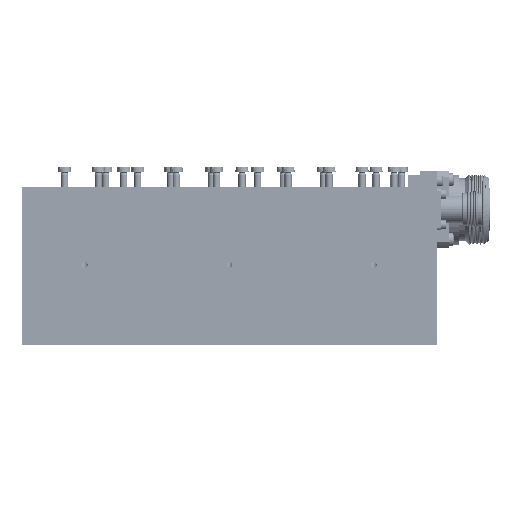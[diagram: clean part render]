
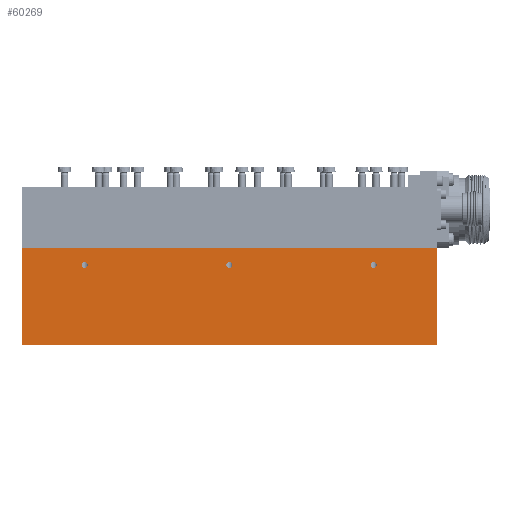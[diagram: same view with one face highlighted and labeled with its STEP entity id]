
A CAD part, front view. The second image highlights one B-rep face of the part: STEP entity #60269.
In plain terms, the highlighted planar face has unit normal (0, -1, 0).
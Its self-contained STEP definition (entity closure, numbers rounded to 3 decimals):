
#2854=LINE('',#90296,#5380);
#2918=LINE('',#90485,#5444);
#2982=LINE('',#90674,#5508);
#3075=LINE('',#90865,#5601);
#5380=VECTOR('',#74423,1000.);
#5444=VECTOR('',#74549,1000.);
#5508=VECTOR('',#74675,1000.);
#5601=VECTOR('',#74958,1000.);
#11869=ORIENTED_EDGE('',*,*,#22770,.T.);
#11870=ORIENTED_EDGE('',*,*,#23054,.F.);
#11871=ORIENTED_EDGE('',*,*,#22864,.F.);
#11872=ORIENTED_EDGE('',*,*,#22958,.T.);
#11873=ORIENTED_EDGE('',*,*,#23055,.T.);
#11874=ORIENTED_EDGE('',*,*,#23056,.T.);
#11875=ORIENTED_EDGE('',*,*,#23057,.T.);
#22770=EDGE_CURVE('',#29032,#29033,#2854,.T.);
#22864=EDGE_CURVE('',#29126,#29127,#2918,.T.);
#22958=EDGE_CURVE('',#29126,#29032,#2982,.T.);
#23054=EDGE_CURVE('',#29127,#29033,#3075,.T.);
#23055=EDGE_CURVE('',#29223,#29223,#33927,.T.);
#23056=EDGE_CURVE('',#29224,#29224,#33928,.T.);
#23057=EDGE_CURVE('',#29225,#29225,#33929,.T.);
#29032=VERTEX_POINT('',#90297);
#29033=VERTEX_POINT('',#90298);
#29126=VERTEX_POINT('',#90486);
#29127=VERTEX_POINT('',#90487);
#29223=VERTEX_POINT('',#90868);
#29224=VERTEX_POINT('',#90870);
#29225=VERTEX_POINT('',#90872);
#33927=CIRCLE('',#65511,1.23);
#33928=CIRCLE('',#65512,1.23);
#33929=CIRCLE('',#65513,1.23);
#37737=EDGE_LOOP('',(#11869,#11870,#11871,#11872));
#37738=EDGE_LOOP('',(#11873));
#37739=EDGE_LOOP('',(#11874));
#37740=EDGE_LOOP('',(#11875));
#44132=FACE_BOUND('',#37737,.T.);
#44133=FACE_BOUND('',#37738,.T.);
#44134=FACE_BOUND('',#37739,.T.);
#44135=FACE_BOUND('',#37740,.T.);
#49143=PLANE('',#65510);
#60269=ADVANCED_FACE('',(#44132,#44133,#44134,#44135),#49143,.F.);
#65510=AXIS2_PLACEMENT_3D('',#90866,#74959,#74960);
#65511=AXIS2_PLACEMENT_3D('',#90867,#74961,#74962);
#65512=AXIS2_PLACEMENT_3D('',#90869,#74963,#74964);
#65513=AXIS2_PLACEMENT_3D('',#90871,#74965,#74966);
#74423=DIRECTION('',(0.,0.,1.));
#74549=DIRECTION('',(0.,0.,1.));
#74675=DIRECTION('',(1.,0.,0.));
#74958=DIRECTION('',(1.,0.,0.));
#74959=DIRECTION('',(0.,1.,0.));
#74960=DIRECTION('',(0.,0.,1.));
#74961=DIRECTION('',(0.,1.,0.));
#74962=DIRECTION('',(0.,0.,1.));
#74963=DIRECTION('',(0.,1.,0.));
#74964=DIRECTION('',(0.,0.,1.));
#74965=DIRECTION('',(0.,1.,0.));
#74966=DIRECTION('',(0.,0.,1.));
#90296=CARTESIAN_POINT('',(147.9,-80.,-55.11));
#90297=CARTESIAN_POINT('',(147.9,-80.,-55.11));
#90298=CARTESIAN_POINT('',(147.9,-80.,-15.11));
#90485=CARTESIAN_POINT('',(-24.1,-80.,-55.11));
#90486=CARTESIAN_POINT('',(-24.1,-80.,-55.11));
#90487=CARTESIAN_POINT('',(-24.1,-80.,-15.11));
#90674=CARTESIAN_POINT('',(-24.1,-80.,-55.11));
#90865=CARTESIAN_POINT('',(-24.1,-80.,-15.11));
#90866=CARTESIAN_POINT('',(-24.1,-80.,-55.11));
#90867=CARTESIAN_POINT('',(121.9,-80.,-22.11));
#90868=CARTESIAN_POINT('',(121.9,-80.,-20.881));
#90869=CARTESIAN_POINT('',(61.9,-80.,-22.11));
#90870=CARTESIAN_POINT('',(61.9,-80.,-20.881));
#90871=CARTESIAN_POINT('',(1.9,-80.,-22.11));
#90872=CARTESIAN_POINT('',(1.9,-80.,-20.881));
